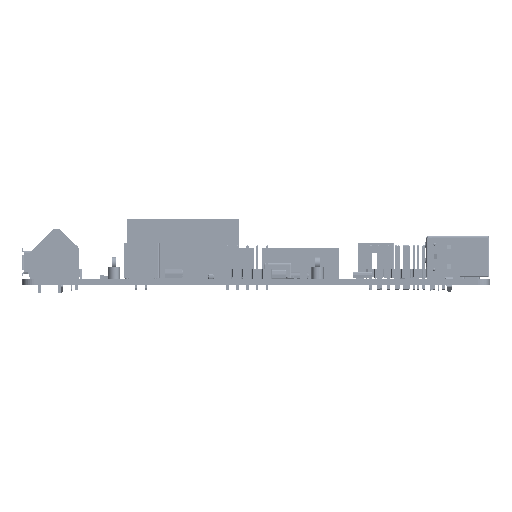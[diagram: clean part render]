
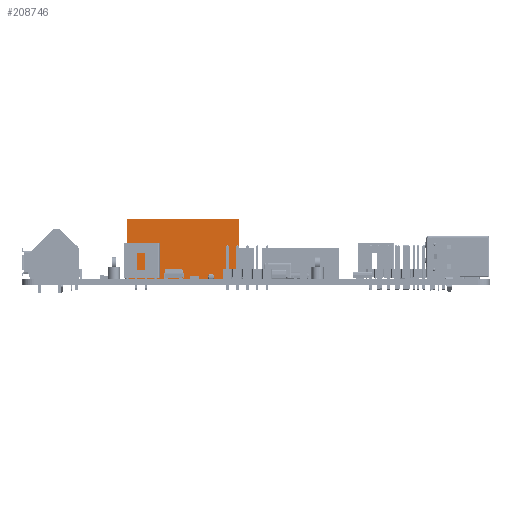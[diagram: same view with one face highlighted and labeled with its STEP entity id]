
A CAD part, left-side view. The second image highlights one B-rep face of the part: STEP entity #208746.
In plain terms, the highlighted planar face has unit normal (-1, 0, 0).
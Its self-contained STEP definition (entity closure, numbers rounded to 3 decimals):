
#18661=FACE_OUTER_BOUND('',#30885,.T.);
#30885=EDGE_LOOP('',(#164561,#164562,#164563,#164564));
#40437=LINE('',#320042,#62454);
#49668=LINE('',#359874,#71685);
#49669=LINE('',#359876,#71686);
#49670=LINE('',#359877,#71687);
#62454=VECTOR('',#243949,10.);
#71685=VECTOR('',#268026,1.);
#71686=VECTOR('',#268027,1.);
#71687=VECTOR('',#268028,1.);
#83444=VERTEX_POINT('',#320040);
#83445=VERTEX_POINT('',#320041);
#92086=VERTEX_POINT('',#359873);
#92087=VERTEX_POINT('',#359875);
#104229=EDGE_CURVE('',#83444,#83445,#40437,.T.);
#117174=EDGE_CURVE('',#83444,#92086,#49668,.T.);
#117175=EDGE_CURVE('',#92086,#92087,#49669,.T.);
#117176=EDGE_CURVE('',#83445,#92087,#49670,.T.);
#164561=ORIENTED_EDGE('',*,*,#117174,.T.);
#164562=ORIENTED_EDGE('',*,*,#117175,.T.);
#164563=ORIENTED_EDGE('',*,*,#117176,.F.);
#164564=ORIENTED_EDGE('',*,*,#104229,.F.);
#187164=PLANE('',#224702);
#208746=ADVANCED_FACE('',(#18661),#187164,.T.);
#224702=AXIS2_PLACEMENT_3D('',#359872,#268024,#268025);
#243949=DIRECTION('',(0.,1.,0.));
#268024=DIRECTION('center_axis',(-1.,0.,
0.));
#268025=DIRECTION('ref_axis',(0.,1.,0.));
#268026=DIRECTION('',(0.,0.,1.));
#268027=DIRECTION('',(0.,1.,0.));
#268028=DIRECTION('',(0.,0.,1.));
#320040=CARTESIAN_POINT('',(71.56,64.25,0.));
#320041=CARTESIAN_POINT('',(71.56,93.05,0.));
#320042=CARTESIAN_POINT('',(71.56,33.625,0.));
#359872=CARTESIAN_POINT('Origin',(71.56,64.25,0.));
#359873=CARTESIAN_POINT('',(71.56,64.25,15.3));
#359874=CARTESIAN_POINT('',(71.56,64.25,0.));
#359875=CARTESIAN_POINT('',(71.56,93.05,15.3));
#359876=CARTESIAN_POINT('',(71.56,64.25,15.3));
#359877=CARTESIAN_POINT('',(71.56,93.05,0.));
